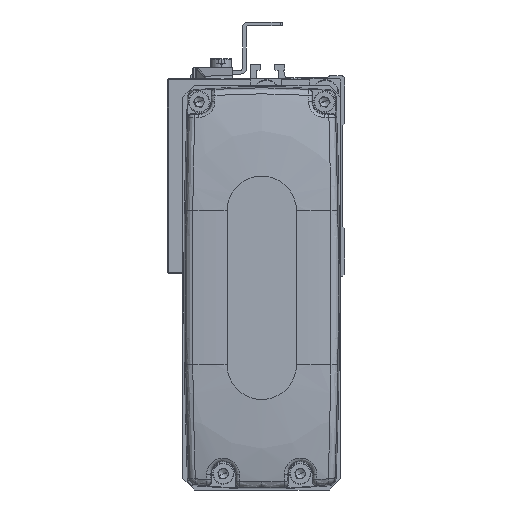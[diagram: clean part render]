
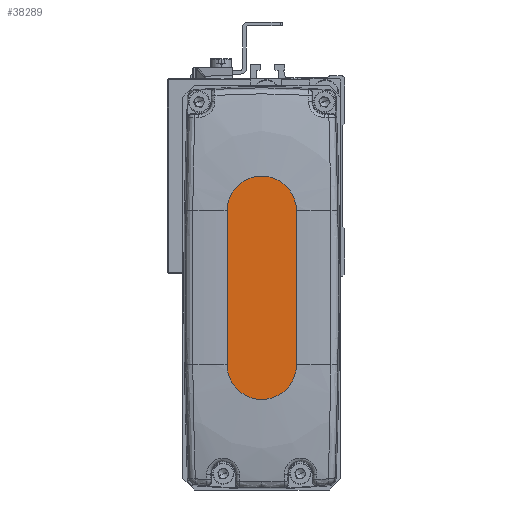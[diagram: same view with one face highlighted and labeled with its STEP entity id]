
A CAD part, left-side view. The second image highlights one B-rep face of the part: STEP entity #38289.
In plain terms, the highlighted planar face has unit normal (-1, 0, 0).
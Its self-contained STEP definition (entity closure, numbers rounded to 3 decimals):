
#571 = DIRECTION ( 'NONE',  ( 0., -1., 0. ) ) ;
#1580 = VECTOR ( 'NONE', #30200, 1000. ) ;
#1698 = CARTESIAN_POINT ( 'NONE',  ( -57., 12.5, -9. ) ) ;
#2291 = AXIS2_PLACEMENT_3D ( 'NONE', #23428, #5584, #27671 ) ;
#2974 = EDGE_CURVE ( 'NONE', #32345, #22562, #22795, .T. ) ;
#3482 = VERTEX_POINT ( 'NONE', #18043 ) ;
#3827 = DIRECTION ( 'NONE',  ( 0., 0., -1. ) ) ;
#5584 = DIRECTION ( 'NONE',  ( 1., 0., 0. ) ) ;
#8464 = ORIENTED_EDGE ( 'NONE', *, *, #37810, .F. ) ;
#8765 = DIRECTION ( 'NONE',  ( 0., 0., 1. ) ) ;
#9410 = DIRECTION ( 'NONE',  ( 1., 0., 0. ) ) ;
#12390 = VECTOR ( 'NONE', #8765, 1000. ) ;
#12952 = PLANE ( 'NONE',  #34301 ) ;
#18043 = CARTESIAN_POINT ( 'NONE',  ( -57., 12.5, -49. ) ) ;
#18471 = CARTESIAN_POINT ( 'NONE',  ( -57., 30.5, -9. ) ) ;
#21264 = EDGE_CURVE ( 'NONE', #3482, #32876, #45246, .T. ) ;
#21445 = CARTESIAN_POINT ( 'NONE',  ( -57., 21.5, -49. ) ) ;
#21750 = ORIENTED_EDGE ( 'NONE', *, *, #2974, .F. ) ;
#22562 = VERTEX_POINT ( 'NONE', #24678 ) ;
#22795 = CIRCLE ( 'NONE', #2291, 9. ) ;
#23023 = CARTESIAN_POINT ( 'NONE',  ( -57., 30.5, -49. ) ) ;
#23428 = CARTESIAN_POINT ( 'NONE',  ( -57., 21.5, -9. ) ) ;
#24678 = CARTESIAN_POINT ( 'NONE',  ( -57., 12.5, -9. ) ) ;
#27671 = DIRECTION ( 'NONE',  ( 0., 1., 0. ) ) ;
#27916 = ORIENTED_EDGE ( 'NONE', *, *, #21264, .F. ) ;
#30160 = EDGE_CURVE ( 'NONE', #22562, #3482, #33534, .T. ) ;
#30200 = DIRECTION ( 'NONE',  ( 0., 0., -1. ) ) ;
#32345 = VERTEX_POINT ( 'NONE', #18471 ) ;
#32593 = EDGE_LOOP ( 'NONE', ( #27916, #33827, #21750, #8464 ) ) ;
#32876 = VERTEX_POINT ( 'NONE', #38718 ) ;
#33534 = LINE ( 'NONE', #1698, #1580 ) ;
#33827 = ORIENTED_EDGE ( 'NONE', *, *, #30160, .F. ) ;
#34301 = AXIS2_PLACEMENT_3D ( 'NONE', #41842, #9410, #571 ) ;
#35879 = DIRECTION ( 'NONE',  ( 1., 0., 0. ) ) ;
#37810 = EDGE_CURVE ( 'NONE', #32876, #32345, #44767, .T. ) ;
#38289 = ADVANCED_FACE ( 'NONE', ( #45407 ), #12952, .F. ) ;
#38718 = CARTESIAN_POINT ( 'NONE',  ( -57., 30.5, -49. ) ) ;
#41842 = CARTESIAN_POINT ( 'NONE',  ( -57., 668.266, 37.766 ) ) ;
#42182 = AXIS2_PLACEMENT_3D ( 'NONE', #21445, #35879, #3827 ) ;
#44767 = LINE ( 'NONE', #23023, #12390 ) ;
#45246 = CIRCLE ( 'NONE', #42182, 9. ) ;
#45407 = FACE_OUTER_BOUND ( 'NONE', #32593, .T. ) ;
